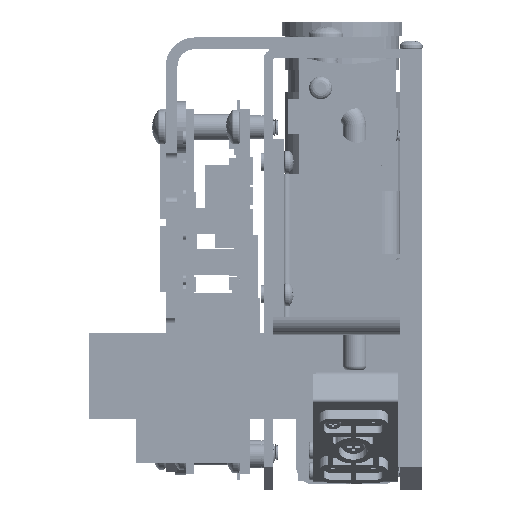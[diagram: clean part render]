
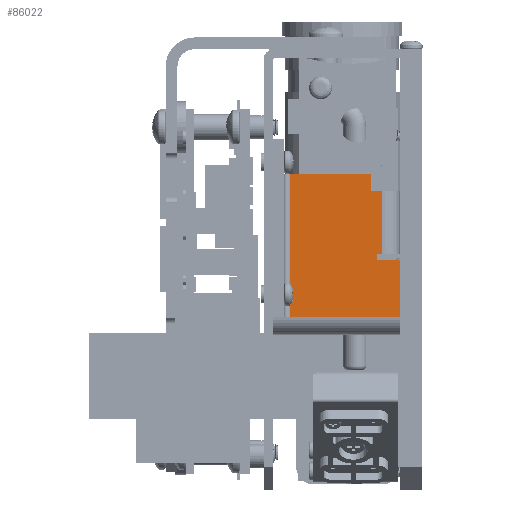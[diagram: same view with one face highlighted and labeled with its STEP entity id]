
A CAD part, left-side view. The second image highlights one B-rep face of the part: STEP entity #86022.
In plain terms, the highlighted planar face has unit normal (-1, 0, 0) as drawn and (1, 0, 0) by its records, which use the part's own axes.
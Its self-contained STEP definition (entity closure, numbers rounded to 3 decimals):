
#13054 = VECTOR ( 'NONE', #135408, 1000. ) ;
#17060 = CARTESIAN_POINT ( 'NONE',  ( 58., 0., 0. ) ) ;
#21063 = CARTESIAN_POINT ( 'NONE',  ( 58., 0., -11. ) ) ;
#21248 = DIRECTION ( 'NONE',  ( 0., 1., 0. ) ) ;
#22364 = DIRECTION ( 'NONE',  ( 0., -1., 0. ) ) ;
#32415 = CARTESIAN_POINT ( 'NONE',  ( 58., 5.96, -12. ) ) ;
#34758 = DIRECTION ( 'NONE',  ( 0., 0., -1. ) ) ;
#35488 = DIRECTION ( 'NONE',  ( -1., 0., 0. ) ) ;
#41974 = EDGE_CURVE ( 'NONE', #221884, #197641, #111385, .T. ) ;
#45126 = EDGE_CURVE ( 'NONE', #175776, #222270, #178145, .T. ) ;
#49310 = EDGE_CURVE ( 'NONE', #197641, #119619, #116191, .T. ) ;
#49621 = LINE ( 'NONE', #149272, #184138 ) ;
#51688 = DIRECTION ( 'NONE',  ( 0., 0., -1. ) ) ;
#51843 = VECTOR ( 'NONE', #219273, 1000. ) ;
#54246 = EDGE_CURVE ( 'NONE', #134217, #224204, #197783, .T. ) ;
#61452 = DIRECTION ( 'NONE',  ( 0., -1., 0. ) ) ;
#63103 = ORIENTED_EDGE ( 'NONE', *, *, #88683, .T. ) ;
#63536 = CARTESIAN_POINT ( 'NONE',  ( 58., 0., -12. ) ) ;
#70259 = VERTEX_POINT ( 'NONE', #140134 ) ;
#71491 = EDGE_CURVE ( 'NONE', #70259, #134217, #231374, .T. ) ;
#73971 = ORIENTED_EDGE ( 'NONE', *, *, #49310, .F. ) ;
#74592 = EDGE_CURVE ( 'NONE', #221884, #222270, #123271, .T. ) ;
#76767 = ORIENTED_EDGE ( 'NONE', *, *, #121326, .T. ) ;
#77593 = CARTESIAN_POINT ( 'NONE',  ( 58., 22., -26. ) ) ;
#79176 = VECTOR ( 'NONE', #61452, 1000. ) ;
#79465 = EDGE_CURVE ( 'NONE', #183579, #175776, #82551, .T. ) ;
#80252 = VECTOR ( 'NONE', #51688, 1000. ) ;
#82551 = LINE ( 'NONE', #113651, #222704 ) ;
#85511 = VECTOR ( 'NONE', #85840, 1000. ) ;
#85840 = DIRECTION ( 'NONE',  ( 0., 1., 0. ) ) ;
#86022 = ADVANCED_FACE ( 'NONE', ( #197068 ), #89863, .F. ) ;
#88683 = EDGE_CURVE ( 'NONE', #70259, #181857, #102405, .T. ) ;
#89863 = PLANE ( 'NONE',  #134336 ) ;
#89938 = CARTESIAN_POINT ( 'NONE',  ( 58., 0., 0. ) ) ;
#95037 = EDGE_LOOP ( 'NONE', ( #156064, #142196, #139192, #76767, #129524, #175778, #63103, #226367, #73971, #100639 ) ) ;
#100639 = ORIENTED_EDGE ( 'NONE', *, *, #41974, .F. ) ;
#102405 = LINE ( 'NONE', #89938, #193924 ) ;
#111385 = LINE ( 'NONE', #63536, #202849 ) ;
#113651 = CARTESIAN_POINT ( 'NONE',  ( 58., 7.96, -26. ) ) ;
#116191 = LINE ( 'NONE', #153727, #13054 ) ;
#118165 = VECTOR ( 'NONE', #22364, 1000. ) ;
#118875 = DIRECTION ( 'NONE',  ( 0., 1., 0. ) ) ;
#119619 = VERTEX_POINT ( 'NONE', #207068 ) ;
#121326 = EDGE_CURVE ( 'NONE', #183579, #224204, #49621, .T. ) ;
#123271 = LINE ( 'NONE', #179615, #80252 ) ;
#129524 = ORIENTED_EDGE ( 'NONE', *, *, #54246, .F. ) ;
#134217 = VERTEX_POINT ( 'NONE', #148838 ) ;
#134336 = AXIS2_PLACEMENT_3D ( 'NONE', #17060, #35488, #163435 ) ;
#135185 = CARTESIAN_POINT ( 'NONE',  ( 58., 6.96, -12. ) ) ;
#135408 = DIRECTION ( 'NONE',  ( 0., 0., 1. ) ) ;
#139192 = ORIENTED_EDGE ( 'NONE', *, *, #79465, .F. ) ;
#140134 = CARTESIAN_POINT ( 'NONE',  ( 58., 0., -1. ) ) ;
#142196 = ORIENTED_EDGE ( 'NONE', *, *, #45126, .F. ) ;
#146657 = CARTESIAN_POINT ( 'NONE',  ( 58., 22., -1. ) ) ;
#148838 = CARTESIAN_POINT ( 'NONE',  ( 58., 22., -1. ) ) ;
#149272 = CARTESIAN_POINT ( 'NONE',  ( 58., 0., -26. ) ) ;
#150383 = DIRECTION ( 'NONE',  ( 0., 0., 1. ) ) ;
#152729 = CARTESIAN_POINT ( 'NONE',  ( 58., 0., -11. ) ) ;
#153727 = CARTESIAN_POINT ( 'NONE',  ( 58., 6.96, 0. ) ) ;
#156064 = ORIENTED_EDGE ( 'NONE', *, *, #74592, .T. ) ;
#162628 = CARTESIAN_POINT ( 'NONE',  ( 58., 7.96, -23. ) ) ;
#163435 = DIRECTION ( 'NONE',  ( 0., 0., 1. ) ) ;
#172177 = CARTESIAN_POINT ( 'NONE',  ( 58., 5.96, -23. ) ) ;
#175776 = VERTEX_POINT ( 'NONE', #162628 ) ;
#175778 = ORIENTED_EDGE ( 'NONE', *, *, #71491, .F. ) ;
#178145 = LINE ( 'NONE', #205428, #118165 ) ;
#179615 = CARTESIAN_POINT ( 'NONE',  ( 58., 5.96, -12. ) ) ;
#181857 = VERTEX_POINT ( 'NONE', #21063 ) ;
#183579 = VERTEX_POINT ( 'NONE', #213800 ) ;
#184138 = VECTOR ( 'NONE', #21248, 1000. ) ;
#193924 = VECTOR ( 'NONE', #34758, 1000. ) ;
#197068 = FACE_OUTER_BOUND ( 'NONE', #95037, .T. ) ;
#197641 = VERTEX_POINT ( 'NONE', #135185 ) ;
#197783 = LINE ( 'NONE', #146657, #51843 ) ;
#199100 = EDGE_CURVE ( 'NONE', #119619, #181857, #230799, .T. ) ;
#202849 = VECTOR ( 'NONE', #118875, 1000. ) ;
#205428 = CARTESIAN_POINT ( 'NONE',  ( 58., 2.96, -23. ) ) ;
#207068 = CARTESIAN_POINT ( 'NONE',  ( 58., 6.96, -11. ) ) ;
#213800 = CARTESIAN_POINT ( 'NONE',  ( 58., 7.96, -26. ) ) ;
#214528 = CARTESIAN_POINT ( 'NONE',  ( 58., 25., -1. ) ) ;
#219273 = DIRECTION ( 'NONE',  ( 0., 0., -1. ) ) ;
#221884 = VERTEX_POINT ( 'NONE', #32415 ) ;
#222270 = VERTEX_POINT ( 'NONE', #172177 ) ;
#222704 = VECTOR ( 'NONE', #150383, 1000. ) ;
#224204 = VERTEX_POINT ( 'NONE', #77593 ) ;
#226367 = ORIENTED_EDGE ( 'NONE', *, *, #199100, .F. ) ;
#230799 = LINE ( 'NONE', #152729, #79176 ) ;
#231374 = LINE ( 'NONE', #214528, #85511 ) ;
